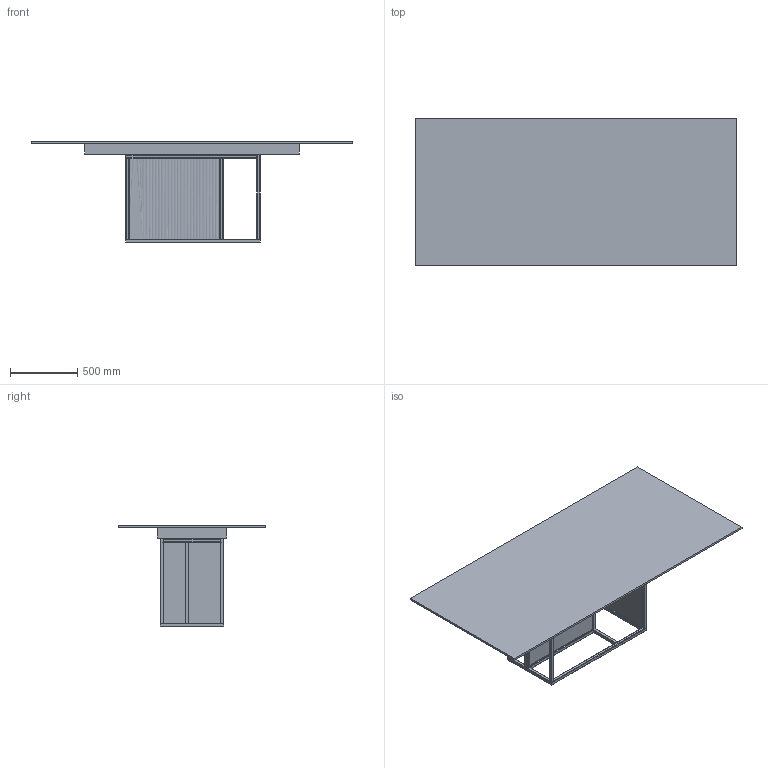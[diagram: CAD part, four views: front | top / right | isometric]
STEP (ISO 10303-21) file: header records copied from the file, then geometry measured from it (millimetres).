
FILE_DESCRIPTION(/* description */ (''),/* implementation_level */ '2;1');
FILE_NAME(/* name */ 'THEO_2~1',/* time_stamp */ '2019-07-05T15:30:32+02:00',/* author */ (''),/* organization */ (''),/* preprocessor_version */ 'ST-DEVELOPER v16.5',/* originating_system */ '',/* authorisation */ '');
FILE_SCHEMA (('CONFIG_CONTROL_DESIGN'));
Length unit declared in the file: millimetre
Products named in the file (1): Document
Bounding box: 2400 x 1100 x 755.08 mm (x, y, z)
Volume: 61084017.9 mm3; surface area: 9315734.5 mm2
Topology: 19 solids, 21 shells, 286 faces, 740 edges, 488 vertices
Faces by surface type: plane 192, bspline 94
Entity records: 15698 total; most frequent: CARTESIAN_POINT 10791, ORIENTED_EDGE 1432, EDGE_CURVE 740, B_SPLINE_CURVE_WITH_KNOTS 592, VERTEX_POINT 488, EDGE_LOOP 326, ADVANCED_FACE 286, FACE_OUTER_BOUND 286
